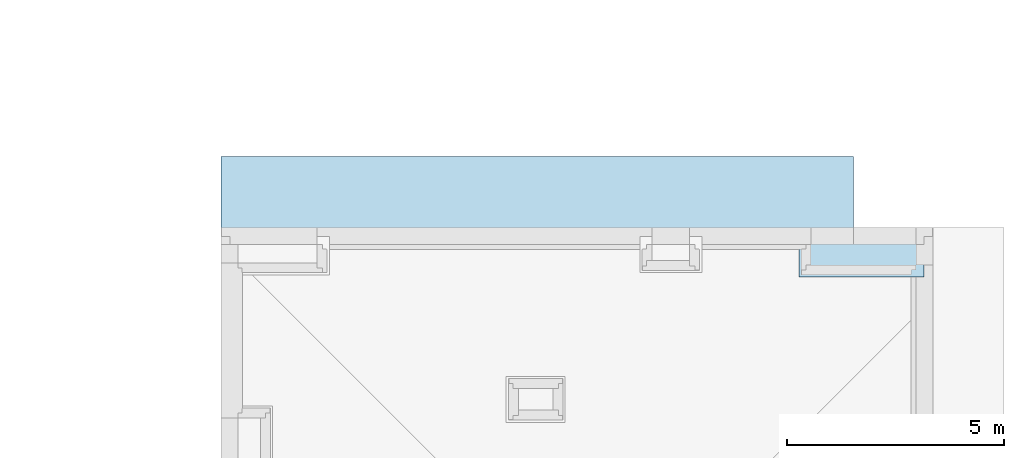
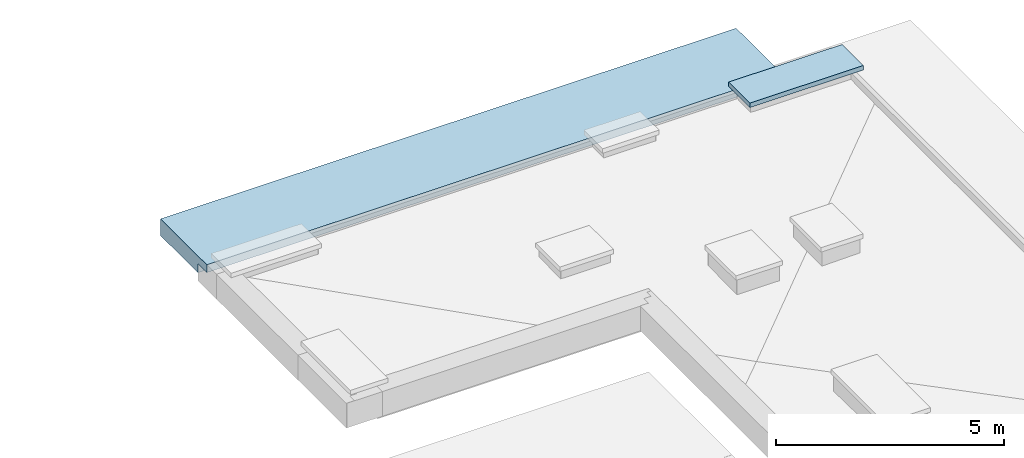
# One storey, part 5 of 16: 2 slabs.
"""IFC2X3 building model written with IfcOpenShell, lengths in millimetres."""

from ifc_helpers import new_model, entity, si_unit, converted_unit, derived_unit, money_unit, direction, frame, origin_with_axes, place, context, subcontext, project, spatial, faceted_brep, material, material_list, type_object, element, save


model = new_model("IFC2X3")

# Units and contexts
model_context = context("Model", 3, precision=0.01, world=origin_with_axes(), true_north=direction((0.34421633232, 0.938890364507)))
body_context = subcontext(model_context, "Body", "Model", "MODEL_VIEW")
ifc_project = project(units=[si_unit("LENGTHUNIT", "METRE", prefix="MILLI"), si_unit("AREAUNIT", "SQUARE_METRE"), si_unit("VOLUMEUNIT", "CUBIC_METRE"), converted_unit("PLANEANGLEUNIT", "DEGREE", entity("IfcPlaneAngleMeasure", 0.0174532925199), si_unit("PLANEANGLEUNIT", "RADIAN"), dimensions=[0, 0, 0, 0, 0, 0, 0]), si_unit("SOLIDANGLEUNIT", "STERADIAN"), money_unit("USD"), converted_unit("TIMEUNIT", "Year", entity("IfcTimeMeasure", 31556926.0), si_unit("TIMEUNIT", "SECOND"), dimensions=[0, 0, 1, 0, 0, 0, 0]), si_unit("MASSUNIT", "GRAM", prefix="KILO"), si_unit("THERMODYNAMICTEMPERATUREUNIT", "DEGREE_CELSIUS"), si_unit("LUMINOUSINTENSITYUNIT", "LUMEN"), si_unit("ENERGYUNIT", "JOULE", prefix="MEGA"), derived_unit("THERMALCONDUCTANCEUNIT", [(si_unit("POWERUNIT", "WATT"), 1), (si_unit("LENGTHUNIT", "METRE"), -1), (si_unit("THERMODYNAMICTEMPERATUREUNIT", "KELVIN"), -1)]), derived_unit("SPECIFICHEATCAPACITYUNIT", [(si_unit("ENERGYUNIT", "JOULE"), 1), (si_unit("MASSUNIT", "GRAM", prefix="KILO"), -1), (si_unit("THERMODYNAMICTEMPERATUREUNIT", "KELVIN"), -1)]), derived_unit("MASSDENSITYUNIT", [(si_unit("MASSUNIT", "GRAM", prefix="KILO"), 1), (si_unit("VOLUMEUNIT", "CUBIC_METRE"), -1)])], contexts=[model_context])

# Site, building, storey
site_placement = place(None, origin_with_axes())
site = spatial("IfcSite", under=ifc_project, at=site_placement, Name="USTRONIE MORSKIE", CompositionType="ELEMENT")
building_placement = place(site_placement, origin_with_axes())
building = spatial("IfcBuilding", under=site, at=building_placement, Name="Budynek", CompositionType="ELEMENT")
storey_placement = place(building_placement, frame((0.0, 0.0, 19000.0), z_axis=(0.0, 0.0, 1.0), x_axis=(1.0, 0.0, 0.0)))
storey = spatial("IfcBuildingStorey", under=building, at=storey_placement, Name="DACH", CompositionType="ELEMENT", Elevation=19000.0)

# Slabs
ifc_material_1 = material(Name="Beton konstrukcyjny B25")
slab_type_1 = type_object("IfcSlabType", Name="Beton konstrukcyjny B25 120", PredefinedType="FLOOR")
slab_1_placement = place(storey_placement, frame((421587.920833, 743871.199036, 620.0), z_axis=(0.0, 0.0, 1.0), x_axis=(1.0, 0.0, 0.0)))
element("IfcSlab", 1, at=slab_1_placement, inside=storey, type_object=slab_type_1, material=ifc_material_1, Name="P3", PredefinedType="FLOOR", context=body_context, shape_type="Brep", body=[
    faceted_brep([(0.0, 0.0, 0.0), (0.0, 0.0, -120.0), (2880.00008628, 0.0, -120.0), (2880.00008628, 0.0, 0.0), (0.0, 930.0, 0.0), (0.0, 930.0, -120.0), (2880.00008628, 930.0, -120.0), (2880.00008628, 930.0, 0.0)], [[[0, 1, 2, 3]], [[4, 5, 1, 0]], [[2, 1, 5, 6]], [[3, 2, 6, 7]], [[4, 0, 3, 7]], [[7, 6, 5, 4]]]),
])
ifc_material_2 = material(Name="Membrana przeciwwilgociowa")
ifc_material_3 = material(Name="Pustka powietrzna")
ifc_material_4 = material(Name="Laminat")
ifc_material_list = material_list([ifc_material_2, ifc_material_1, ifc_material_3, ifc_material_4])
slab_type_2 = type_object("IfcSlabType", Name="Balkony na HALFENACH SuperFAT 450", PredefinedType="FLOOR")
slab_2_placement = place(storey_placement, frame((422847.920919, 746651.19893, 500.0), z_axis=(0.0, 0.0, 1.0), x_axis=(1.0, 0.0, 0.0)))
element("IfcSlab", 2, at=slab_2_placement, inside=storey, type_object=slab_type_2, material=ifc_material_list, Name="P3", PredefinedType="FLOOR", context=body_context, shape_type="Brep", body=[
    faceted_brep([(-14590.0, 0.0, -10.0), (-14590.0, 0.0, 0.0), (0.0, 0.0, 0.0), (0.0, 0.0, -10.0), (-14590.0, -2029.99989346, -10.0), (-14590.0, -2029.99989346, 0.0), (0.0, -2029.99989346, 0.0), (0.0, -2029.99989346, -10.0)], [[[0, 1, 2, 3]], [[4, 5, 1, 0]], [[2, 1, 5, 6]], [[3, 2, 6, 7]], [[3, 7, 4, 0]], [[7, 6, 5, 4]]]),
    faceted_brep([(-14590.0, 0.0, -210.0), (-14590.0, 0.0, -10.0), (0.0, 0.0, -10.0), (0.0, 0.0, -210.0), (-14590.0, -2029.99989346, -210.0), (-14590.0, -2029.99989346, -10.0), (0.0, -2029.99989346, -10.0), (0.0, -2029.99989346, -210.0)], [[[0, 1, 2, 3]], [[4, 5, 1, 0]], [[2, 1, 5, 6]], [[3, 2, 6, 7]], [[3, 7, 4, 0]], [[7, 6, 5, 4]]]),
    faceted_brep([(0.0, -1639.99989346, -210.0), (0.0, 0.0, -210.0), (-14590.0, 0.0, -210.0), (-14590.0, -1639.99989346, -210.0), (0.0, -1639.99989346, -430.0), (0.0, 0.0, -430.0), (-14590.0, 0.0, -430.0), (-14590.0, -1639.99989346, -430.0)], [[[0, 1, 2, 3]], [[0, 4, 5, 1]], [[5, 6, 2, 1]], [[7, 3, 2, 6]], [[4, 0, 3, 7]], [[4, 7, 6, 5]]]),
    faceted_brep([(0.0, -1639.99989346, -430.0), (0.0, 0.0, -430.0), (-14590.0, 0.0, -430.0), (-14590.0, -1639.99989346, -430.0), (0.0, -1639.99989346, -450.0), (0.0, 0.0, -450.0), (-14590.0, 0.0, -450.0), (-14590.0, -1639.99989346, -449.999998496), (-980.0, -1639.99989346, -450.0), (-330.0, -1639.99989346, -450.0), (-9.99999999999, -1639.99989346, -450.0), (-14070.0, -1639.99989346, -449.999998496), (-7049.99997834, -1639.99989346, -450.0), (-6729.99997834, -1639.99989346, -450.0), (-6230.00082976, -1639.99989346, -450.0), (-5910.00082976, -1639.99989346, -450.0), (-1300.0, -1639.99989346, -450.0)], [[[0, 1, 2, 3]], [[0, 4, 5, 1]], [[1, 5, 6, 2]], [[7, 3, 2, 6]], [[8, 9, 10, 4, 0, 3, 7, 11, 12, 13, 14, 15, 16]], [[9, 8, 16, 15, 14, 13, 12, 11, 7, 6, 5, 4, 10]]]),
])

save(model, "model.ifc")
